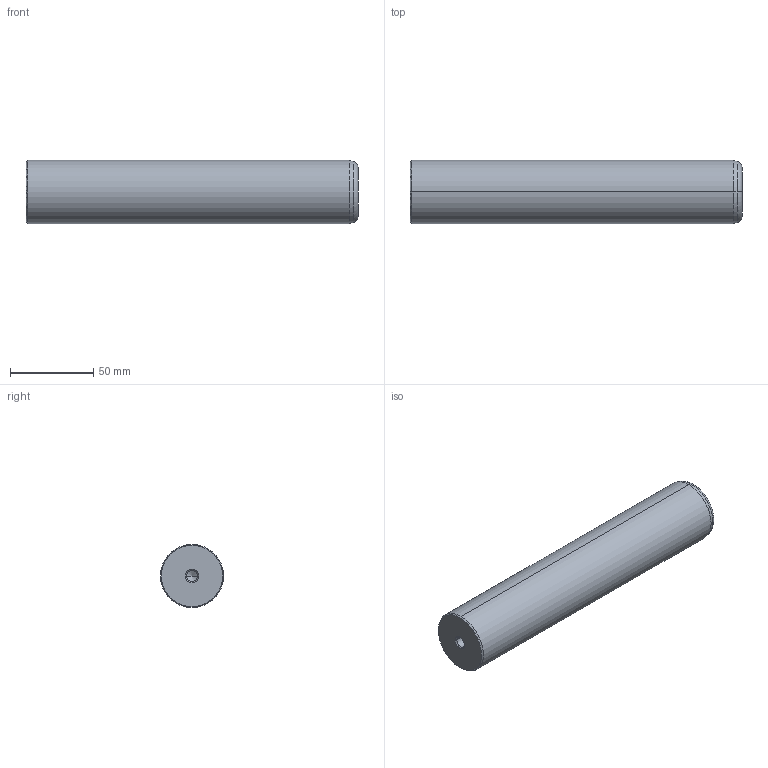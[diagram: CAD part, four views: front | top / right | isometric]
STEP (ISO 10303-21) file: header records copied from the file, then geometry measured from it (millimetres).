
FILE_DESCRIPTION(('CATIA V5 STEP Exchange'),'2;1');
FILE_NAME('C:\Users\Utente\Desktop\IO LAVORO\3D X SITO CF\X SITO\720\720-38x200.stp','2021-01-01T12:06:28+00:00',('none'),('none'),'CATIA Version 5 Release 20 GA (IN-10)','CATIA V5 STEP AP203','none');
FILE_SCHEMA(('CONFIG_CONTROL_DESIGN'));
Length unit declared in the file: millimetre
Products named in the file (1): 720-38x200
Bounding box: 200 x 38 x 38 mm (x, y, z)
Volume: 224483.4 mm3; surface area: 26830.8 mm2
Topology: 1 solids, 1 shells, 22 faces, 56 edges, 34 vertices
Faces by surface type: cone 12, cylinder 6, plane 2, torus 2
Entity records: 755 total; most frequent: CARTESIAN_POINT 216, ORIENTED_EDGE 104, DIRECTION 89, EDGE_CURVE 52, AXIS2_PLACEMENT_3D 50, VERTEX_POINT 34, CIRCLE 27, EDGE_LOOP 24
